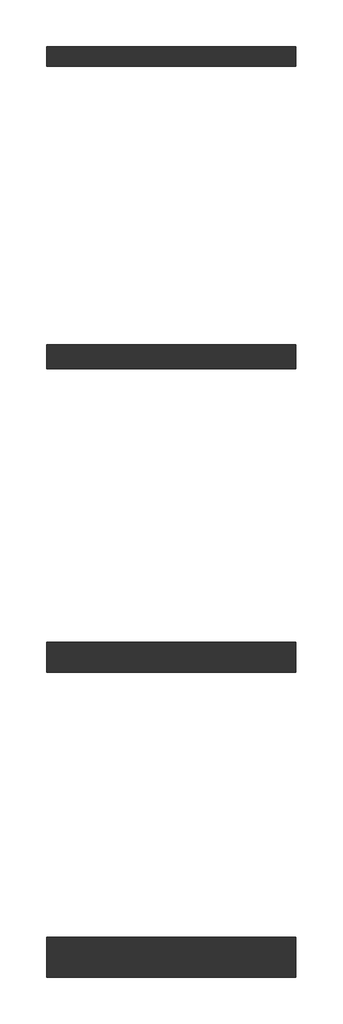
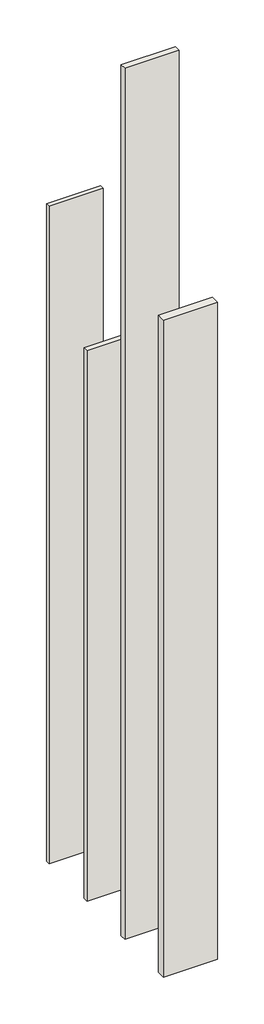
# One storey: 4 walls.
"""IFC4 building model written with IfcOpenShell, lengths in millimetres."""

from ifc_helpers import new_model, si_unit, origin, origin_with_axes, place, context, project, spatial, polyline, outline, extrude, element, save

model = new_model("IFC4")

# Units and contexts
model_context = context("Model", 3, world=origin())
ifc_project = project(units=[si_unit("LENGTHUNIT", "METRE", prefix="MILLI")], contexts=[model_context])

# Site, building, storey
site = spatial("IfcSite", under=ifc_project)
building = spatial("IfcBuilding", under=site)
storey = spatial("IfcBuildingStorey", under=building, Name="Референтни ниво", Elevation=0.0)

# Walls
placement = place(None, origin())
element("IfcWall", 1, ObjectType="Knauf Insulation - Decibel - 50 mm -50 x 8000 x 625 mm", at=placement, inside=storey, context=model_context, shape_type="SweptSolid", body=[
    extrude(outline(polyline([(-222423.2417825, 183192.205474), (-223048.2417825, 183192.205474), (-223048.2417825, 183242.205474), (-222423.2417825, 183242.205474), (-222423.2417825, 183192.205474)])), origin_with_axes(), (0.0, 0.0, 1.0), 8000.0),
])
element("IfcWall", 2, ObjectType="Knauf Insulation - Decibel - 60 mm - 60 x 6700 x 625 mm", at=placement, inside=storey, context=model_context, shape_type="SweptSolid", body=[
    extrude(outline(polyline([(-222423.2417825, 182434.705474), (-223048.2417825, 182434.705474), (-223048.2417825, 182494.705474), (-222423.2417825, 182494.705474), (-222423.2417825, 182434.705474)])), origin_with_axes(), (0.0, 0.0, 1.0), 6700.0),
])
element("IfcWall", 3, ObjectType="Knauf Insulation - Decibel - 75 mm - 75 x 10600 x 625 mm", at=placement, inside=storey, context=model_context, shape_type="SweptSolid", body=[
    extrude(outline(polyline([(-222423.2417825, 181674.705474), (-223048.2417825, 181674.705474), (-223048.2417825, 181749.705474), (-222423.2417825, 181749.705474), (-222423.2417825, 181674.705474)])), origin_with_axes(), (0.0, 0.0, 1.0), 10600.0),
])
element("IfcWall", 4, ObjectType="Knauf Insulation - Decibel - 100 mm - 100 x 8000 x 625 mm", at=placement, inside=storey, context=model_context, shape_type="SweptSolid", body=[
    extrude(outline(polyline([(-222423.2417825, 180909.705474), (-223048.2417825, 180909.705474), (-223048.2417825, 181009.705474), (-222423.2417825, 181009.705474), (-222423.2417825, 180909.705474)])), origin_with_axes(), (0.0, 0.0, 1.0), 8000.0),
])

save(model, "model.ifc")
